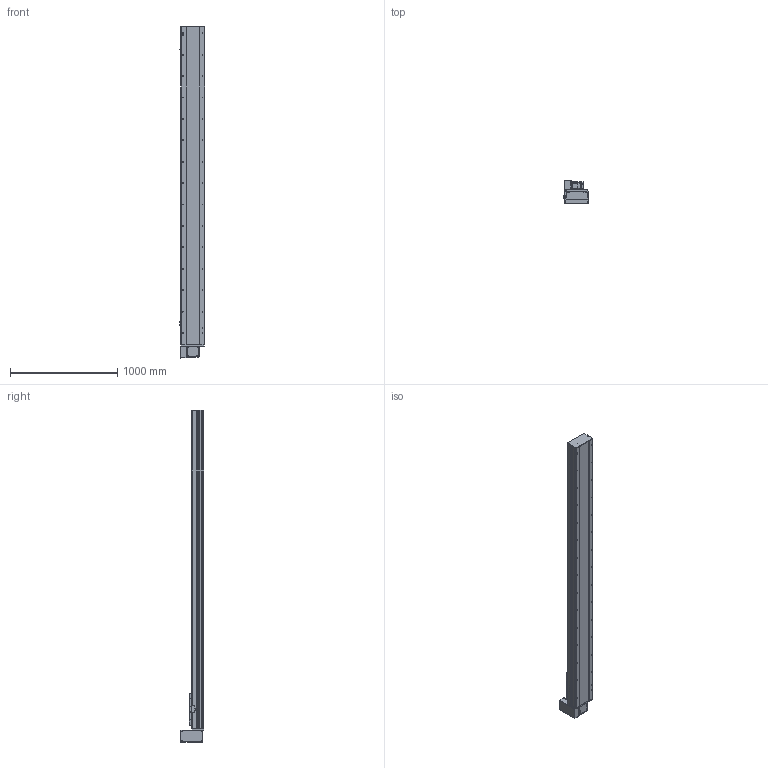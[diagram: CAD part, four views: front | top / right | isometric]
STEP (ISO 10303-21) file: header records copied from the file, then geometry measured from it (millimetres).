
FILE_DESCRIPTION (( 'STEP AP214' ), '1' );
FILE_NAME ('TPE22-L40-2550-RU-T75-C4.STEP', '2023-04-13T01:41:19', ( '' ), ( '' ), 'SwSTEP 2.0', 'SolidWorks 2020', '' );
FILE_SCHEMA (( 'AUTOMOTIVE_DESIGN' ));
Length unit declared in the file: millimetre
Products named in the file (10): TPE22-L40-2550-RU-T75-C4; 葩璃 TPT22-L-009 萇儂啣^TPE22-L40-RU-T75-C4; 葩璃 MSMD08PC_P75^TPE22-L40-RU-T75-C4; 葩璃 TPE22-L-002 耜裔ZTMZ-220-04^TPE22-L40-RU-T75-C4; 葩璃 TPE22-L-001 菁釱MZ-220-01^TPE22-L40-RU-T75-C4; 葩璃 TPE22 賑雄殤^TPE22-L40-RU-T75-C4; 葩璃 詩湍150^TPE22-L40-RU-T75-C4; hexagon head bolts-full thread gb_GB_FASTENER_BOLT_STBAB A M5X16-N; 葩璃 pm-t65-672^TPE22-L40-RU-T75-C4; 葩璃 TPE22-L-007 々湍釱^TPE22-L40-RU-T75-C4
Assembly tree (12 placements, depth 2):
  TPE22-L40-2550-RU-T75-C4
    葩璃 TPE22-L-001 菁釱MZ-220-01^TPE22-L40-RU-T75-C4
    葩璃 TPE22-L-002 耜裔ZTMZ-220-04^TPE22-L40-RU-T75-C4  x2
    葩璃 詩湍150^TPE22-L40-RU-T75-C4
    葩璃 TPE22-L-007 々湍釱^TPE22-L40-RU-T75-C4
    葩璃 TPT22-L-009 萇儂啣^TPE22-L40-RU-T75-C4
    葩璃 TPE22 賑雄殤^TPE22-L40-RU-T75-C4
    葩璃 pm-t65-672^TPE22-L40-RU-T75-C4  x3
    葩璃 MSMD08PC_P75^TPE22-L40-RU-T75-C4
    hexagon head bolts-full thread gb_GB_FASTENER_BOLT_STBAB A M5X16-N
Bounding box: 233.7 x 223.65 x 3102 mm (x, y, z)
Volume: 34168245.6 mm3; surface area: 4805350.5 mm2
Topology: 22 solids, 22 shells, 1805 faces, 4739 edges, 3005 vertices
Faces by surface type: plane 1039, cylinder 600, cone 136, bspline 30
Entity records: 51170 total; most frequent: CARTESIAN_POINT 10475, DIRECTION 8050, ORIENTED_EDGE 7910, EDGE_CURVE 3955, AXIS2_PLACEMENT_3D 2685, LINE 2680, VECTOR 2680, VERTEX_POINT 2549
